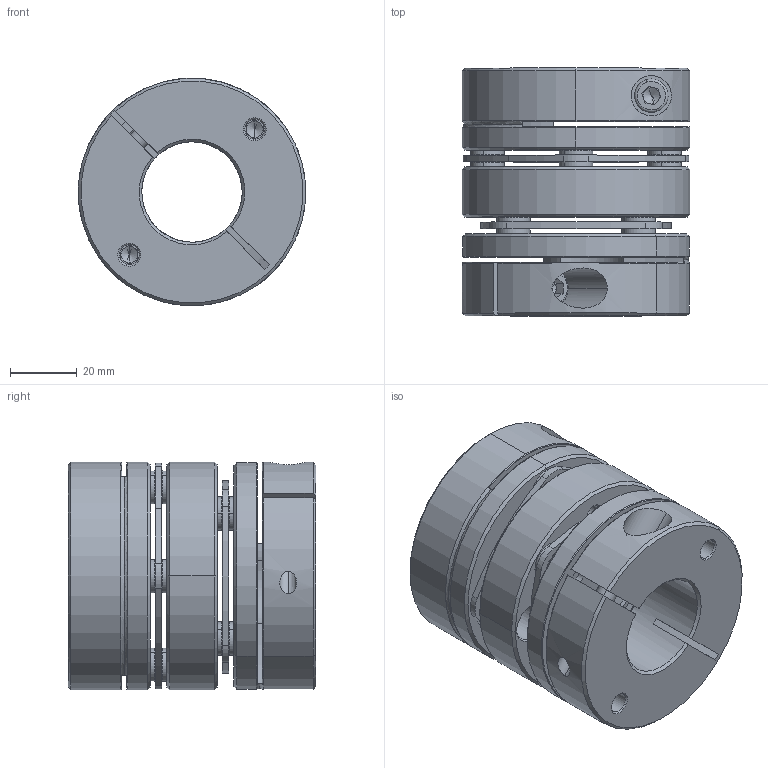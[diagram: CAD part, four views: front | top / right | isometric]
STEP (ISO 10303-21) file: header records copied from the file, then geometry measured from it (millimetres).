
FILE_DESCRIPTION (( 'STEP AP203' ), '1' );
FILE_NAME ('LD2-D68-30-30.STEP', '2021-10-26T08:47:01', ( '' ), ( '' ), 'SwSTEP 2.0', 'SolidWorks 2018', '' );
FILE_SCHEMA (( 'CONFIG_CONTROL_DESIGN' ));
Length unit declared in the file: millimetre
Products named in the file (2): LD2-D68-30-30; 錨璃102^LD2-D68
Assembly tree (1 placements, depth 2):
  LD2-D68-30-30
    錨璃102^LD2-D68
Bounding box: 68 x 74 x 68 mm (x, y, z)
Volume: 171843.8 mm3; surface area: 62930.5 mm2
Topology: 1 solids, 27 shells, 732 faces, 1696 edges, 1032 vertices
Faces by surface type: cylinder 256, cone 226, plane 220, torus 30
Entity records: 21398 total; most frequent: DIRECTION 3974, CARTESIAN_POINT 3912, ORIENTED_EDGE 3344, EDGE_CURVE 1672, AXIS2_PLACEMENT_3D 1614, VERTEX_POINT 1032, CIRCLE 878, EDGE_LOOP 868
